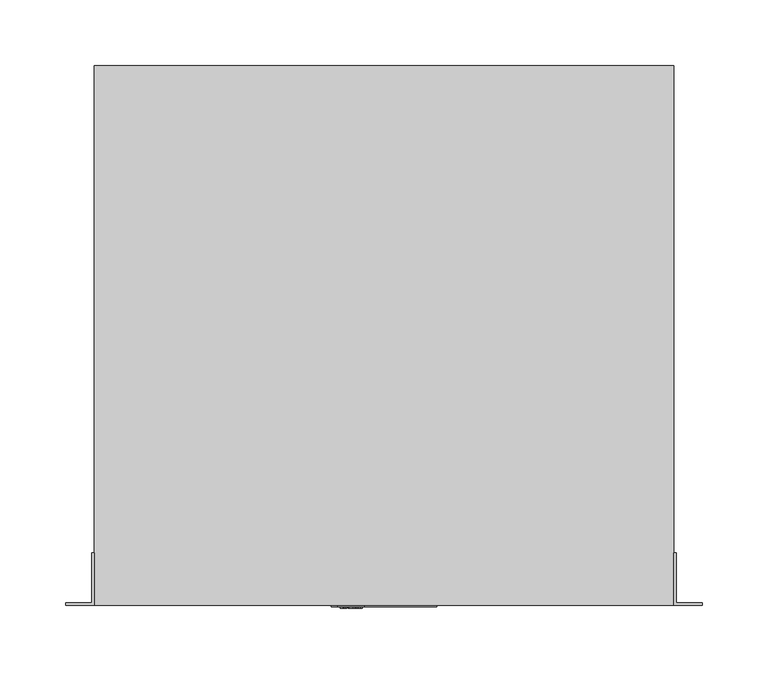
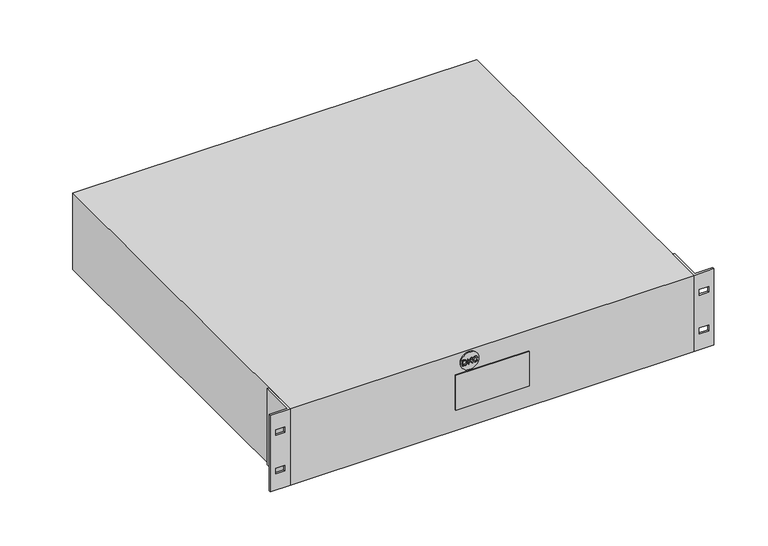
"""IFC4 building model written with IfcOpenShell, lengths in millimetres: proxy geometry, НВО_КНС_БатарейныйБлокBPSMLR_DKC : BPSMLR1-24V."""

from ifc_helpers import new_model, si_unit, point, frame, frame_2d, origin, origin_with_axes, place, context, project, spatial, polyline, circle_curve, trimmed, segment, composite_curve, outline, extrude, faceted_brep, source, transform, mapped, element, save


def electrical_equipment_aa2af709(model_context):
    return source(origin(), model_context, "Body", "SolidModel", [
        extrude(outline(polyline([(73.0, -33.1463789), (73.0, -30.967046), (73.103007, -29.9980448), (73.9520786, -28.7273804), (74.829845, -28.3153525), (76.0460629, -28.154956), (77.4793312, -28.391872), (78.5094008, -29.1055631), (78.9405585, -29.9914229), (79.0273786, -31.0671099), (79.0273786, -33.1463789), (73.0, -33.1463789)]), holes=[polyline([(73.7534223, -32.3929566), (78.2739563, -32.3929566), (78.2739563, -31.0803536), (78.153291, -30.0120243), (77.4852173, -29.2299072), (76.0578351, -28.9083783), (74.9181367, -29.0724537), (73.8623154, -30.0900153), (73.7534223, -31.0597522), (73.7534223, -32.3929566)])]), frame((0.0, -2.0, 0.0), z_axis=(0.0, 1.0, 0.0), x_axis=(0.0, 0.0, 1.0)), (0.0, 0.0, 1.0), 6.0),
        extrude(outline(polyline([(73.0, -26.7422891), (75.0719114, -26.365578), (76.0401768, -25.3502237), (73.0, -23.0487539), (73.0, -22.1275774), (76.5493255, -24.816059), (79.0273786, -22.2217552), (79.0273786, -23.2753692), (76.076965, -26.365578), (79.0273786, -27.1190003), (73.0, -26.7422891)])), frame((0.0, -2.0, 0.0), z_axis=(0.0, 1.0, 0.0), x_axis=(0.0, 0.0, 1.0)), (0.0, 0.0, 1.0), 6.0),
        extrude(outline(polyline([(75.1425447, -17.3245101), (74.0330126, -17.963889), (73.6592445, -19.1168311), (73.9336845, -20.1564657), (74.7628905, -20.8642706), (76.0607782, -21.0916217), (77.180611, -20.8995873), (78.0458694, -20.2337209), (78.3681341, -19.055027), (78.0775073, -18.0367296), (77.3307068, -16.6652655), (78.652139, -17.5165445), (79.1215564, -19.0255964), (78.7588248, -20.4735799), (77.6971173, -21.4881985), (76.0593067, -21.845044), (74.4479835, -21.5294013), (73.3016632, -20.6096963), (72.9058222, -19.0417832), (73.4289504, -17.4643052), (75.1425447, -17.3245101)])), frame((0.0, -2.0, 0.0), z_axis=(0.0, 1.0, 0.0), x_axis=(0.0, 0.0, 1.0)), (0.0, 0.0, 1.0), 6.0),
        extrude(outline(composite_curve([segment(trimmed(circle_curve(frame_2d((76.0, -25.0)), 10.0), [point((76.0, -35.0))], [point((76.0, -15.0))], False, "CARTESIAN"), True, "CONTINUOUS"), segment(trimmed(circle_curve(frame_2d((76.0, -25.0)), 10.0), [point((76.0, -15.0))], [point((76.0, -35.0))], False, "CARTESIAN"), True, "CONTINUOUS")], self_intersect=False)), frame((0.0, -1.0, 0.0), z_axis=(0.0, 1.0, 0.0), x_axis=(0.0, 0.0, 1.0)), (0.0, 0.0, 1.0), 10.0),
        faceted_brep([(220.0, 0.0, 88.0), (241.5, 0.0, 88.0), (241.5, 2.0, 88.0), (222.0, 2.0, 88.0), (222.0, 40.0, 88.0), (220.0, 40.0, 88.0), (220.0, 0.0, 0.0), (220.0, 40.0, 0.0), (222.0, 40.0, 0.0), (222.0, 2.0, 0.0), (241.5, 2.0, 0.0), (241.5, 0.0, 0.0), (225.75, 0.0, 69.475), (235.75, 0.0, 69.475), (235.75, 0.0, 62.925), (225.75, 0.0, 62.925), (225.75, 0.0, 25.075), (235.75, 0.0, 25.075), (235.75, 0.0, 18.525), (225.75, 0.0, 18.525), (235.75, 2.0, 69.475), (225.75, 2.0, 69.475), (225.75, 2.0, 62.925), (235.75, 2.0, 62.925), (235.75, 2.0, 25.075), (225.75, 2.0, 25.075), (225.75, 2.0, 18.525), (235.75, 2.0, 18.525)], [[[0, 1, 2, 3, 4, 5]], [[6, 7, 8, 9, 10, 11]], [[1, 0, 6, 11], [12, 13, 14, 15], [16, 17, 18, 19]], [[2, 1, 11, 10]], [[3, 2, 10, 9], [20, 21, 22, 23], [24, 25, 26, 27]], [[4, 3, 9, 8]], [[5, 4, 8, 7]], [[0, 5, 7, 6]], [[16, 25, 24, 17]], [[25, 16, 19, 26]], [[26, 19, 18, 27]], [[17, 24, 27, 18]], [[12, 21, 20, 13]], [[21, 12, 15, 22]], [[22, 15, 14, 23]], [[13, 20, 23, 14]]]),
        faceted_brep([(-222.0, 2.0, 88.0), (-241.5, 2.0, 88.0), (-241.5, 0.0, 88.0), (-220.0, 0.0, 88.0), (-220.0, 40.0, 88.0), (-222.0, 40.0, 88.0), (-222.0, 2.0, 0.0), (-222.0, 40.0, 0.0), (-220.0, 40.0, 0.0), (-220.0, 0.0, 0.0), (-241.5, 0.0, 0.0), (-241.5, 2.0, 0.0), (-225.75, 2.0, 69.475), (-235.75, 2.0, 69.475), (-235.75, 2.0, 62.925), (-225.75, 2.0, 62.925), (-225.75, 2.0, 18.525), (-225.75, 2.0, 25.075), (-235.75, 2.0, 25.075), (-235.75, 2.0, 18.525), (-235.75, 0.0, 69.475), (-225.75, 0.0, 69.475), (-225.75, 0.0, 62.925), (-235.75, 0.0, 62.925), (-225.75, 0.0, 25.075), (-225.75, 0.0, 18.525), (-235.75, 0.0, 18.525), (-235.75, 0.0, 25.075)], [[[0, 1, 2, 3, 4, 5]], [[6, 7, 8, 9, 10, 11]], [[1, 0, 6, 11], [12, 13, 14, 15], [16, 17, 18, 19]], [[2, 1, 11, 10]], [[3, 2, 10, 9], [20, 21, 22, 23], [24, 25, 26, 27]], [[4, 3, 9, 8]], [[5, 4, 8, 7]], [[0, 5, 7, 6]], [[20, 13, 12, 21]], [[13, 20, 23, 14]], [[14, 23, 22, 15]], [[21, 12, 15, 22]], [[24, 17, 16, 25]], [[17, 24, 27, 18]], [[18, 27, 26, 19]], [[25, 16, 19, 26]]]),
        extrude(outline(polyline([(40.0, -1.0), (-40.0, -1.0), (-40.0, 0.0), (40.0, 0.0), (40.0, -1.0)])), frame((0.0, 0.0, 24.0), z_axis=(0.0, 0.0, 1.0), x_axis=(1.0, 0.0, 0.0)), (0.0, 0.0, 1.0), 40.0),
        extrude(outline(polyline([(220.0, 0.0), (-220.0, 0.0), (-220.0, 410.0), (220.0, 410.0), (220.0, 0.0)])), origin_with_axes(), (0.0, 0.0, 1.0), 88.0),
    ])


if __name__ == "__main__":
    model = new_model("IFC4")
    model_context = context("Model", 3, world=origin())
    ifc_project = project(units=[si_unit("LENGTHUNIT", "METRE", prefix="MILLI")], contexts=[model_context])
    site = spatial("IfcSite", under=ifc_project)
    building = spatial("IfcBuilding", under=site)
    placement = place(None, origin())
    electrical_equipment_shape = electrical_equipment_aa2af709(model_context)
    element("IfcBuildingElementProxy", 1, Name="НВО_КНС_БатарейныйБлокBPSMLR_DKC : BPSMLR1-24V", ObjectType="НВО_КНС_БатарейныйБлокBPSMLR_DKC : BPSMLR1-24V", at=placement, inside=building, context=model_context, shape_type="MappedRepresentation", body=[
        mapped(electrical_equipment_shape, transform((0.0, 0.0, 0.0), x_axis=(1.0, 0.0, 0.0), y_axis=(0.0, 1.0, 0.0), z_axis=(0.0, 0.0, 1.0))),
    ])
    save(model, "model.ifc")
